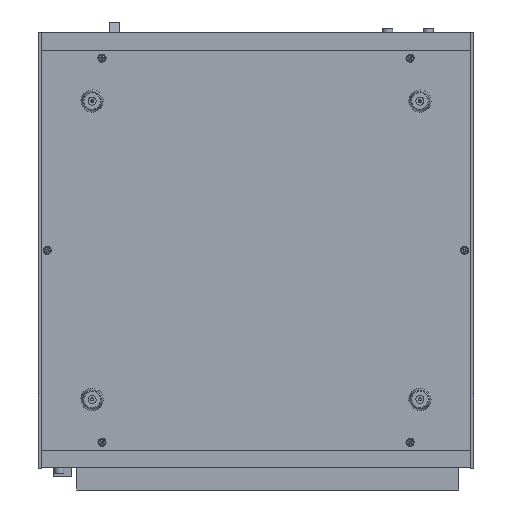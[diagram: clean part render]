
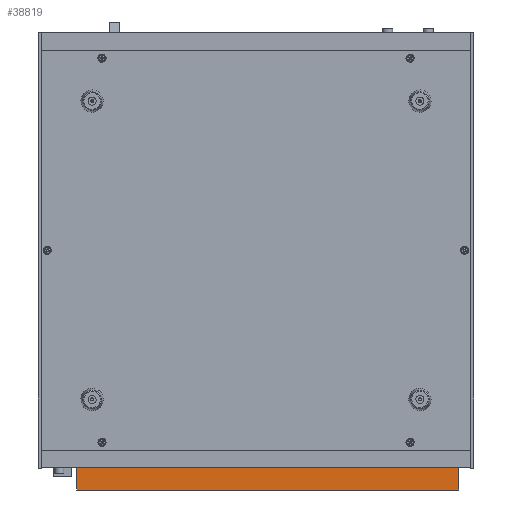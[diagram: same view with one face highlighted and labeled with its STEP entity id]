
A CAD part, front view. The second image highlights one B-rep face of the part: STEP entity #38819.
In plain terms, the highlighted planar face has unit normal (0, -1, 0).
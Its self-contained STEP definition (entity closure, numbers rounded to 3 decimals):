
#1000 = VERTEX_POINT ( 'NONE', #9435 ) ;
#1931 = CARTESIAN_POINT ( 'NONE',  ( 189.199, 237.67, 377. ) ) ;
#2023 = DIRECTION ( 'NONE',  ( 0., 0., -1. ) ) ;
#2388 = VECTOR ( 'NONE', #24010, 1000. ) ;
#3118 = LINE ( 'NONE', #9201, #39352 ) ;
#5019 = EDGE_CURVE ( 'NONE', #11723, #1000, #32122, .T. ) ;
#6156 = CARTESIAN_POINT ( 'NONE',  ( 189.199, 237.67, 377. ) ) ;
#6770 = ORIENTED_EDGE ( 'NONE', *, *, #38752, .T. ) ;
#7454 = VECTOR ( 'NONE', #2023, 1000. ) ;
#7876 = CARTESIAN_POINT ( 'NONE',  ( 189.199, 237.67, 377. ) ) ;
#8394 = DIRECTION ( 'NONE',  ( 1., 0., 0. ) ) ;
#9201 = CARTESIAN_POINT ( 'NONE',  ( 189.199, 237.67, 0. ) ) ;
#9435 = CARTESIAN_POINT ( 'NONE',  ( 219.749, 237.67, 0. ) ) ;
#9525 = DIRECTION ( 'NONE',  ( 0., 0., 1. ) ) ;
#10844 = EDGE_CURVE ( 'NONE', #18663, #11723, #16752, .T. ) ;
#11723 = VERTEX_POINT ( 'NONE', #28897 ) ;
#13729 = ORIENTED_EDGE ( 'NONE', *, *, #10844, .F. ) ;
#14438 = FACE_OUTER_BOUND ( 'NONE', #18967, .T. ) ;
#16752 = LINE ( 'NONE', #1931, #29351 ) ;
#18663 = VERTEX_POINT ( 'NONE', #7876 ) ;
#18967 = EDGE_LOOP ( 'NONE', ( #32706, #35365, #13729, #6770 ) ) ;
#22087 = PLANE ( 'NONE',  #31893 ) ;
#23547 = CARTESIAN_POINT ( 'NONE',  ( 189.199, 237.67, 0. ) ) ;
#24010 = DIRECTION ( 'NONE',  ( 0., 0., -1. ) ) ;
#28681 = EDGE_CURVE ( 'NONE', #32327, #1000, #3118, .T. ) ;
#28897 = CARTESIAN_POINT ( 'NONE',  ( 219.749, 237.67, 377. ) ) ;
#29351 = VECTOR ( 'NONE', #8394, 1000. ) ;
#31893 = AXIS2_PLACEMENT_3D ( 'NONE', #6156, #33855, #9525 ) ;
#32122 = LINE ( 'NONE', #39034, #7454 ) ;
#32327 = VERTEX_POINT ( 'NONE', #23547 ) ;
#32706 = ORIENTED_EDGE ( 'NONE', *, *, #28681, .T. ) ;
#33855 = DIRECTION ( 'NONE',  ( 0., 1., 0. ) ) ;
#35365 = ORIENTED_EDGE ( 'NONE', *, *, #5019, .F. ) ;
#36827 = CARTESIAN_POINT ( 'NONE',  ( 189.199, 237.67, 377. ) ) ;
#37175 = DIRECTION ( 'NONE',  ( 1., 0., 0. ) ) ;
#38752 = EDGE_CURVE ( 'NONE', #18663, #32327, #39113, .T. ) ;
#38819 = ADVANCED_FACE ( 'NONE', ( #14438 ), #22087, .F. ) ;
#39034 = CARTESIAN_POINT ( 'NONE',  ( 219.749, 237.67, 377. ) ) ;
#39113 = LINE ( 'NONE', #36827, #2388 ) ;
#39352 = VECTOR ( 'NONE', #37175, 1000. ) ;
